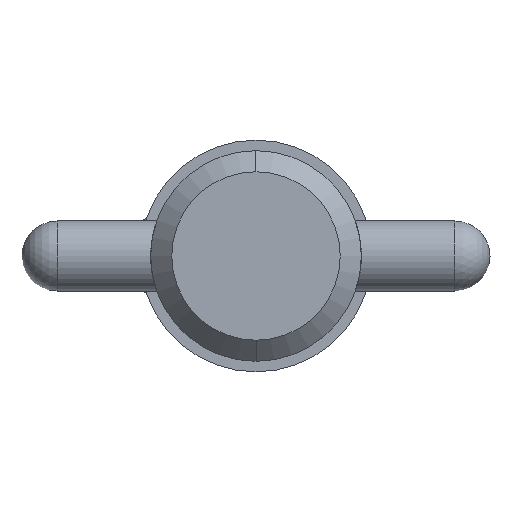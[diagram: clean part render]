
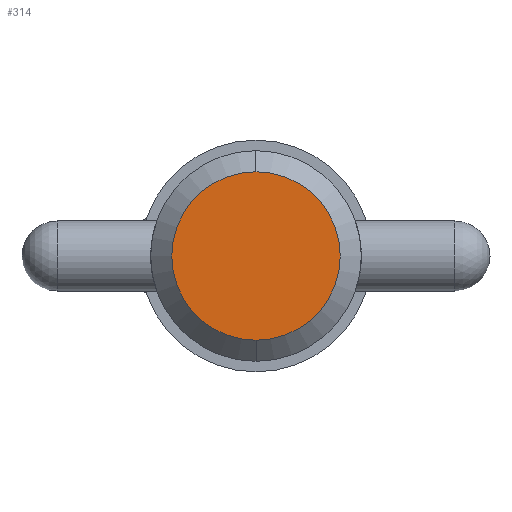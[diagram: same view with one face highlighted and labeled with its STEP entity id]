
A CAD part, left-side view. The second image highlights one B-rep face of the part: STEP entity #314.
In plain terms, the highlighted planar face has unit normal (-1, 0, 0).
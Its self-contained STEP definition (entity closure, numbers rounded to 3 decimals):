
#36 = ORIENTED_EDGE ( 'NONE', *, *, #709, .F. ) ;
#124 = AXIS2_PLACEMENT_3D ( 'NONE', #976, #802, #242 ) ;
#175 = CIRCLE ( 'NONE', #124, 5.716 ) ;
#242 = DIRECTION ( 'NONE',  ( 0., 0., -1. ) ) ;
#265 = DIRECTION ( 'NONE',  ( -1., 0., 0. ) ) ;
#314 = ADVANCED_FACE ( 'NONE', ( #501 ), #343, .T. ) ;
#343 = PLANE ( 'NONE',  #896 ) ;
#390 = CIRCLE ( 'NONE', #771, 5.716 ) ;
#414 = VERTEX_POINT ( 'NONE', #978 ) ;
#417 = CARTESIAN_POINT ( 'NONE',  ( 0., 0., 0. ) ) ;
#501 = FACE_OUTER_BOUND ( 'NONE', #654, .T. ) ;
#536 = VERTEX_POINT ( 'NONE', #615 ) ;
#594 = DIRECTION ( 'NONE',  ( 0., 0., 1. ) ) ;
#605 = DIRECTION ( 'NONE',  ( 1., 0., 0. ) ) ;
#615 = CARTESIAN_POINT ( 'NONE',  ( 0., 0., -5.716 ) ) ;
#654 = EDGE_LOOP ( 'NONE', ( #36, #822 ) ) ;
#709 = EDGE_CURVE ( 'NONE', #536, #414, #175, .T. ) ;
#757 = EDGE_CURVE ( 'NONE', #414, #536, #390, .T. ) ;
#763 = CARTESIAN_POINT ( 'NONE',  ( 0., 0., 0. ) ) ;
#771 = AXIS2_PLACEMENT_3D ( 'NONE', #763, #605, #922 ) ;
#802 = DIRECTION ( 'NONE',  ( 1., 0., 0. ) ) ;
#822 = ORIENTED_EDGE ( 'NONE', *, *, #757, .F. ) ;
#896 = AXIS2_PLACEMENT_3D ( 'NONE', #417, #265, #594 ) ;
#922 = DIRECTION ( 'NONE',  ( 0., 0., -1. ) ) ;
#976 = CARTESIAN_POINT ( 'NONE',  ( 0., 0., 0. ) ) ;
#978 = CARTESIAN_POINT ( 'NONE',  ( 0., 0., 5.716 ) ) ;
